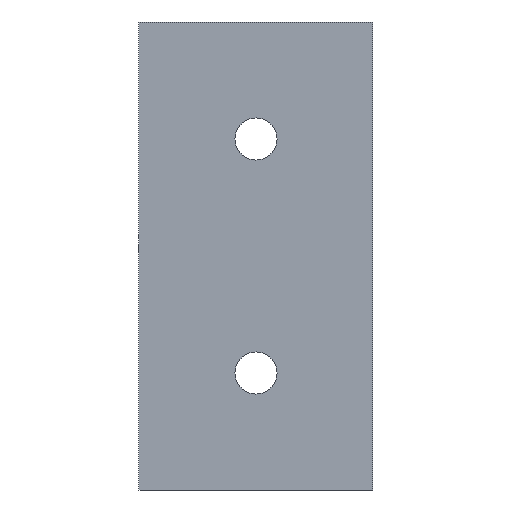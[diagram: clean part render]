
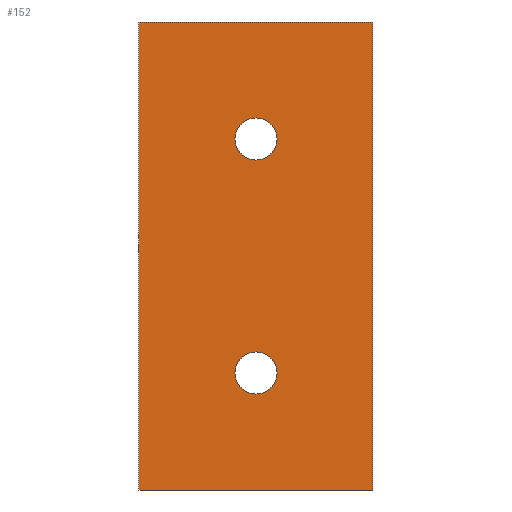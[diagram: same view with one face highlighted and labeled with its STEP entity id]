
A CAD part, front view. The second image highlights one B-rep face of the part: STEP entity #152.
In plain terms, the highlighted planar face has unit normal (0, -1, 0).
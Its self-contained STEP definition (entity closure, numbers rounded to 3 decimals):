
#17=FACE_BOUND('',#43,.T.);
#18=FACE_BOUND('',#44,.T.);
#24=PLANE('',#187);
#32=FACE_OUTER_BOUND('',#42,.T.);
#42=EDGE_LOOP('',(#137,#138,#139,#140));
#43=EDGE_LOOP('',(#141));
#44=EDGE_LOOP('',(#142));
#47=LINE('',#244,#61);
#51=LINE('',#252,#65);
#54=LINE('',#258,#68);
#57=LINE('',#263,#71);
#61=VECTOR('',#206,10.);
#65=VECTOR('',#212,10.);
#68=VECTOR('',#217,10.);
#71=VECTOR('',#222,10.);
#74=CIRCLE('',#178,2.25);
#76=CIRCLE('',#181,2.25);
#78=VERTEX_POINT('',#232);
#80=VERTEX_POINT('',#238);
#81=VERTEX_POINT('',#242);
#82=VERTEX_POINT('',#243);
#85=VERTEX_POINT('',#251);
#87=VERTEX_POINT('',#257);
#91=EDGE_CURVE('',#78,#78,#74,.T.);
#94=EDGE_CURVE('',#80,#80,#76,.T.);
#95=EDGE_CURVE('',#81,#82,#47,.T.);
#99=EDGE_CURVE('',#85,#81,#51,.T.);
#102=EDGE_CURVE('',#87,#85,#54,.T.);
#105=EDGE_CURVE('',#82,#87,#57,.T.);
#137=ORIENTED_EDGE('',*,*,#105,.F.);
#138=ORIENTED_EDGE('',*,*,#95,.F.);
#139=ORIENTED_EDGE('',*,*,#99,.F.);
#140=ORIENTED_EDGE('',*,*,#102,.F.);
#141=ORIENTED_EDGE('',*,*,#94,.F.);
#142=ORIENTED_EDGE('',*,*,#91,.F.);
#152=ADVANCED_FACE('',(#32,#17,#18),#24,.F.);
#178=AXIS2_PLACEMENT_3D('',#234,#195,#196);
#181=AXIS2_PLACEMENT_3D('',#240,#202,#203);
#187=AXIS2_PLACEMENT_3D('',#266,#226,#227);
#195=DIRECTION('center_axis',(0.,-1.,0.));
#196=DIRECTION('ref_axis',(1.,0.,0.));
#202=DIRECTION('center_axis',(0.,-1.,0.));
#203=DIRECTION('ref_axis',(1.,0.,0.));
#206=DIRECTION('',(0.,0.,-1.));
#212=DIRECTION('',(1.,0.,0.));
#217=DIRECTION('',(0.,0.,1.));
#222=DIRECTION('',(-1.,0.,0.));
#226=DIRECTION('center_axis',(0.,1.,0.));
#227=DIRECTION('ref_axis',(0.,0.,1.));
#232=CARTESIAN_POINT('',(-14.75,0.,-12.5));
#234=CARTESIAN_POINT('Origin',(-12.5,0.,-12.5));
#238=CARTESIAN_POINT('',(-14.75,0.,-37.5));
#240=CARTESIAN_POINT('Origin',(-12.5,0.,-37.5));
#242=CARTESIAN_POINT('',(0.,0.,0.));
#243=CARTESIAN_POINT('',(0.,0.,-50.));
#244=CARTESIAN_POINT('',(0.,0.,0.));
#251=CARTESIAN_POINT('',(-25.,0.,0.));
#252=CARTESIAN_POINT('',(-25.,0.,0.));
#257=CARTESIAN_POINT('',(-25.,0.,-50.));
#258=CARTESIAN_POINT('',(-25.,0.,-50.));
#263=CARTESIAN_POINT('',(0.,0.,-50.));
#266=CARTESIAN_POINT('Origin',(-12.5,0.,-25.));
